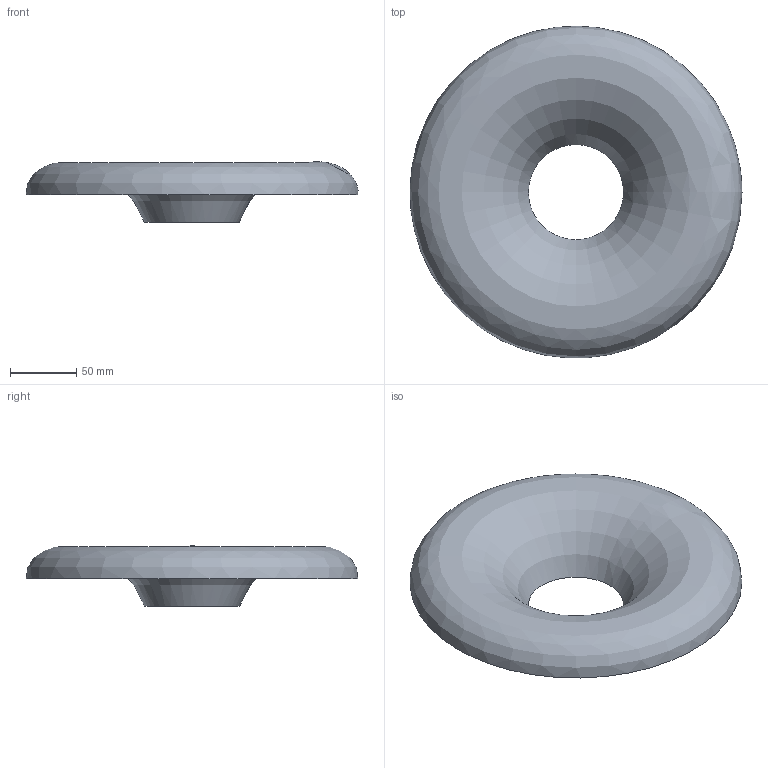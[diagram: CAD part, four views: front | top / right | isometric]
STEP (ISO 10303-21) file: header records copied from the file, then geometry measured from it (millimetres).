
FILE_DESCRIPTION(/* description */ (''),/* implementation_level */ '2;1');
FILE_NAME(/* name */ 'horn',/* time_stamp */ '2024-04-12T12:37:04+08:00',/* author */ (''),/* organization */ (''),/* preprocessor_version */ 'ST-DEVELOPER v16.5',/* originating_system */ '',/* authorisation */ '');
FILE_SCHEMA (('AUTOMOTIVE_DESIGN'));
Length unit declared in the file: millimetre
Products named in the file (1): Document
Bounding box: 251.33 x 251.17 x 45.58 mm (x, y, z)
Surface area: 62085.8 mm2 (no closed solid volume)
Topology: 0 solids, 1 shells, 1 faces, 3 edges, 2 vertices
Faces by surface type: bspline 1
Entity records: 160 total; most frequent: CARTESIAN_POINT 122, ORIENTED_EDGE 4, DIRECTION 4, EDGE_CURVE 3, VERTEX_POINT 2, AXIS2_PLACEMENT_3D 2, SHAPE_REPRESENTATION_RELATIONSHIP 1, PRESENTATION_LAYER_ASSIGNMENT 1
